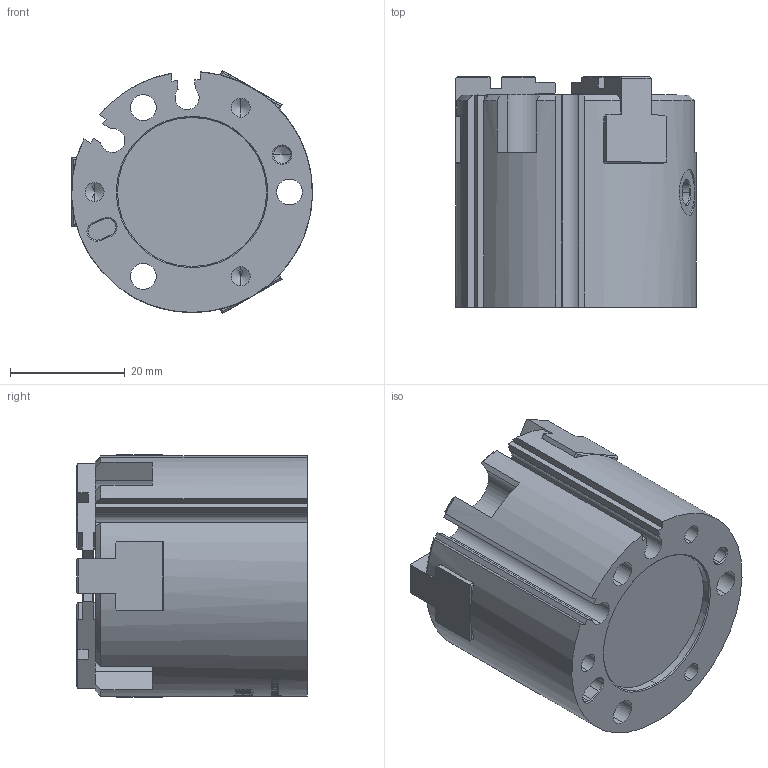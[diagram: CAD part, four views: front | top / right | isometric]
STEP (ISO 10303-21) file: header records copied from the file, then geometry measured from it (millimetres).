
FILE_DESCRIPTION (( 'STEP AP203' ), '1' );
FILE_NAME ('Fy-3D GPS 3-42-W106.04.13.STEP', '2017-04-13T04:25:12', ( 'DanyaoCAD' ), ( '' ), 'SwSTEP 2.0', 'SolidWorks 2016', '' );
FILE_SCHEMA (( 'CONFIG_CONTROL_DESIGN' ));
Length unit declared in the file: millimetre
Products named in the file (4): Griffa; Corpo; Fy-3D  GPS 3-42-W106.04.13; Coperchio
Assembly tree (5 placements, depth 2):
  Fy-3D  GPS 3-42-W106.04.13
    Coperchio
    Griffa  x3
    Corpo
Bounding box: 41.99 x 40.2 x 42.37 mm (x, y, z)
Volume: 45352.7 mm3; surface area: 17077.6 mm2
Topology: 5 solids, 5 shells, 1139 faces, 3206 edges, 2114 vertices
Faces by surface type: bspline 682, plane 276, cylinder 139, cone 42
Entity records: 72378 total; most frequent: CARTESIAN_POINT 50947, ORIENTED_EDGE 5884, EDGE_CURVE 2942, B_SPLINE_CURVE_WITH_KNOTS 2137, VERTEX_POINT 1954, DIRECTION 1783, EDGE_LOOP 1114, FACE_OUTER_BOUND 1051
